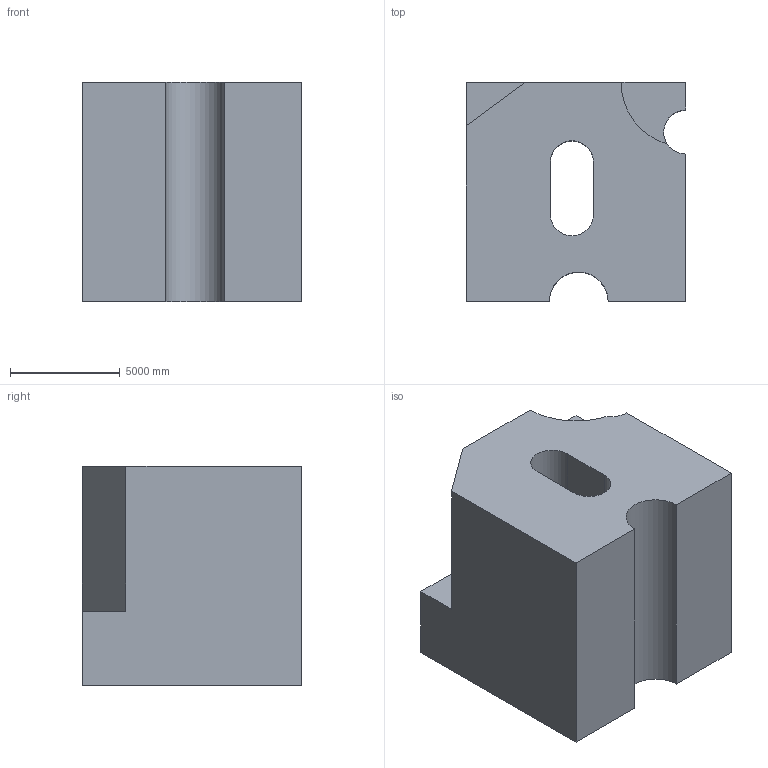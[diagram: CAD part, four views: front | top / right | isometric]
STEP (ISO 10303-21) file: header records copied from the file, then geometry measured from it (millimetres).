
FILE_DESCRIPTION (( 'STEP AP203' ), '1' );
FILE_NAME ('463.STEP', '2022-07-29T11:23:01', ( 'user' ), ( '' ), 'SwSTEP 2.0', 'SolidWorks 2021', '' );
FILE_SCHEMA (( 'CONFIG_CONTROL_DESIGN' ));
Length unit declared in the file: centimetre
Products named in the file (1): 463
Bounding box: 10000 x 10000 x 10000 mm (x, y, z)
Volume: 851505903380.6 mm3; surface area: 698249499 mm2
Topology: 1 solids, 1 shells, 19 faces, 51 edges, 34 vertices
Faces by surface type: plane 13, cylinder 6
Entity records: 679 total; most frequent: CARTESIAN_POINT 105, DIRECTION 104, ORIENTED_EDGE 102, EDGE_CURVE 51, LINE 38, VECTOR 38, VERTEX_POINT 34, AXIS2_PLACEMENT_3D 33
